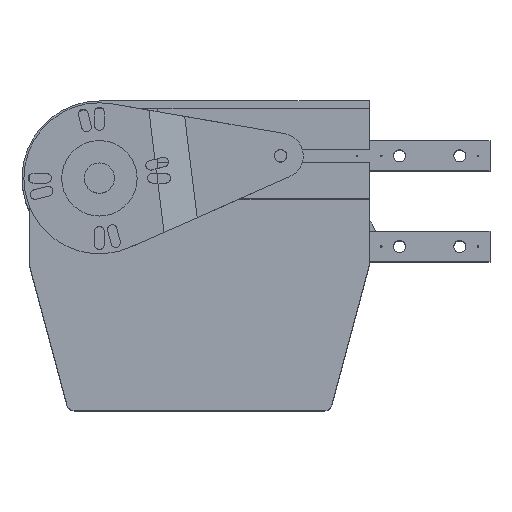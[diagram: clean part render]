
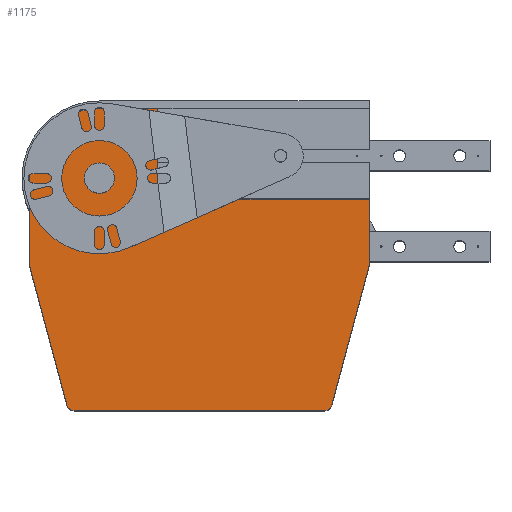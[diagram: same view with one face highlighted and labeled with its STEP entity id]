
A CAD part, top view. The second image highlights one B-rep face of the part: STEP entity #1175.
In plain terms, the highlighted planar face has unit normal (0, 0, 1).
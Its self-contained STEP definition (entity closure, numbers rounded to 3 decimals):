
#113 = LINE ( 'NONE', #465, #6898 ) ;
#126 = CIRCLE ( 'NONE', #4543, 5. ) ;
#172 = CIRCLE ( 'NONE', #3297, 10. ) ;
#414 = CARTESIAN_POINT ( 'NONE',  ( 51.3, -5., 120. ) ) ;
#465 = CARTESIAN_POINT ( 'NONE',  ( 5.17, -109.636, 120. ) ) ;
#512 = ORIENTED_EDGE ( 'NONE', *, *, #3803, .T. ) ;
#594 = EDGE_LOOP ( 'NONE', ( #916, #1393 ) ) ;
#736 = EDGE_CURVE ( 'NONE', #6545, #4932, #172, .T. ) ;
#834 = CARTESIAN_POINT ( 'NONE',  ( 90., -5., 120. ) ) ;
#841 = EDGE_CURVE ( 'NONE', #4054, #5661, #7246, .T. ) ;
#916 = ORIENTED_EDGE ( 'NONE', *, *, #736, .T. ) ;
#969 = VERTEX_POINT ( 'NONE', #2563 ) ;
#970 = CARTESIAN_POINT ( 'NONE',  ( 230., -109., 120. ) ) ;
#1007 = CARTESIAN_POINT ( 'NONE',  ( 200.44, -200., 120. ) ) ;
#1130 = LINE ( 'NONE', #5756, #2305 ) ;
#1138 = CIRCLE ( 'NONE', #7287, 5. ) ;
#1175 = ADVANCED_FACE ( 'NONE', ( #4744, #6193 ), #1613, .F. ) ;
#1377 = ORIENTED_EDGE ( 'NONE', *, *, #2960, .T. ) ;
#1381 = ORIENTED_EDGE ( 'NONE', *, *, #3430, .T. ) ;
#1390 = DIRECTION ( 'NONE',  ( 0., 1., 0. ) ) ;
#1393 = ORIENTED_EDGE ( 'NONE', *, *, #2180, .T. ) ;
#1613 = PLANE ( 'NONE',  #2952 ) ;
#1906 = VECTOR ( 'NONE', #1390, 1000. ) ;
#2075 = CIRCLE ( 'NONE', #8056, 10. ) ;
#2176 = LINE ( 'NONE', #2672, #5105 ) ;
#2180 = EDGE_CURVE ( 'NONE', #4932, #6545, #2075, .T. ) ;
#2198 = CARTESIAN_POINT ( 'NONE',  ( 90., -65., 120. ) ) ;
#2209 = DIRECTION ( 'NONE',  ( -1., 0., 0. ) ) ;
#2216 = CARTESIAN_POINT ( 'NONE',  ( 5.17, -109.636, 120. ) ) ;
#2299 = CARTESIAN_POINT ( 'NONE',  ( 34.56, -200., 120. ) ) ;
#2305 = VECTOR ( 'NONE', #4441, 1000. ) ;
#2330 = CARTESIAN_POINT ( 'NONE',  ( 5., -108.342, 120. ) ) ;
#2331 = CARTESIAN_POINT ( 'NONE',  ( 230., -65., 120. ) ) ;
#2510 = VECTOR ( 'NONE', #7990, 1000. ) ;
#2563 = CARTESIAN_POINT ( 'NONE',  ( 34.56, -205., 120. ) ) ;
#2672 = CARTESIAN_POINT ( 'NONE',  ( 51.3, -5., 120. ) ) ;
#2696 = EDGE_CURVE ( 'NONE', #5558, #7377, #2176, .T. ) ;
#2785 = LINE ( 'NONE', #5201, #4055 ) ;
#2916 = DIRECTION ( 'NONE',  ( 0., 0., -1. ) ) ;
#2952 = AXIS2_PLACEMENT_3D ( 'NONE', #1007, #4091, #2209 ) ;
#2960 = EDGE_CURVE ( 'NONE', #4935, #6211, #126, .T. ) ;
#2998 = DIRECTION ( 'NONE',  ( -1., 0., 0. ) ) ;
#3113 = ORIENTED_EDGE ( 'NONE', *, *, #6491, .T. ) ;
#3179 = VERTEX_POINT ( 'NONE', #3298 ) ;
#3215 = EDGE_CURVE ( 'NONE', #3179, #4935, #7198, .T. ) ;
#3292 = ORIENTED_EDGE ( 'NONE', *, *, #7156, .T. ) ;
#3297 = AXIS2_PLACEMENT_3D ( 'NONE', #7806, #2916, #7887 ) ;
#3298 = CARTESIAN_POINT ( 'NONE',  ( 5., -51.3, 120. ) ) ;
#3349 = ORIENTED_EDGE ( 'NONE', *, *, #841, .T. ) ;
#3430 = EDGE_CURVE ( 'NONE', #6211, #5399, #113, .T. ) ;
#3436 = DIRECTION ( 'NONE',  ( -1., 0., 0. ) ) ;
#3472 = DIRECTION ( 'NONE',  ( -1., 0., 0. ) ) ;
#3589 = CARTESIAN_POINT ( 'NONE',  ( 230., -65., 120. ) ) ;
#3803 = EDGE_CURVE ( 'NONE', #5399, #969, #4789, .T. ) ;
#3851 = VECTOR ( 'NONE', #4633, 1000. ) ;
#3877 = EDGE_LOOP ( 'NONE', ( #3292, #7031, #6121, #3895, #1377, #1381, #512, #4384, #5946, #6844, #3113, #3349 ) ) ;
#3879 = DIRECTION ( 'NONE',  ( -1., 0., 0. ) ) ;
#3883 = CARTESIAN_POINT ( 'NONE',  ( 230., -106.4, 120. ) ) ;
#3895 = ORIENTED_EDGE ( 'NONE', *, *, #3215, .T. ) ;
#4054 = VERTEX_POINT ( 'NONE', #2331 ) ;
#4055 = VECTOR ( 'NONE', #7039, 1000. ) ;
#4064 = DIRECTION ( 'NONE',  ( -1., 0., 0. ) ) ;
#4091 = DIRECTION ( 'NONE',  ( 0., 0., -1. ) ) ;
#4113 = VERTEX_POINT ( 'NONE', #7507 ) ;
#4230 = EDGE_CURVE ( 'NONE', #7377, #3179, #6589, .T. ) ;
#4384 = ORIENTED_EDGE ( 'NONE', *, *, #7861, .T. ) ;
#4441 = DIRECTION ( 'NONE',  ( 1., 0., 0. ) ) ;
#4467 = CARTESIAN_POINT ( 'NONE',  ( 29.73, -201.294, 120. ) ) ;
#4543 = AXIS2_PLACEMENT_3D ( 'NONE', #6101, #7275, #4862 ) ;
#4633 = DIRECTION ( 'NONE',  ( 0., 1., 0. ) ) ;
#4744 = FACE_BOUND ( 'NONE', #594, .T. ) ;
#4789 = CIRCLE ( 'NONE', #7386, 5. ) ;
#4831 = CARTESIAN_POINT ( 'NONE',  ( 41.3, -51.3, 120. ) ) ;
#4862 = DIRECTION ( 'NONE',  ( -1., 0., 0. ) ) ;
#4932 = VERTEX_POINT ( 'NONE', #4831 ) ;
#4935 = VERTEX_POINT ( 'NONE', #2330 ) ;
#5105 = VECTOR ( 'NONE', #3879, 1000. ) ;
#5201 = CARTESIAN_POINT ( 'NONE',  ( 230., -109., 120. ) ) ;
#5220 = LINE ( 'NONE', #3883, #1906 ) ;
#5372 = DIRECTION ( 'NONE',  ( 0., 0., 1. ) ) ;
#5399 = VERTEX_POINT ( 'NONE', #4467 ) ;
#5558 = VERTEX_POINT ( 'NONE', #834 ) ;
#5601 = LINE ( 'NONE', #6455, #3851 ) ;
#5661 = VERTEX_POINT ( 'NONE', #2198 ) ;
#5662 = VECTOR ( 'NONE', #7652, 1000. ) ;
#5723 = EDGE_CURVE ( 'NONE', #4113, #6055, #1138, .T. ) ;
#5756 = CARTESIAN_POINT ( 'NONE',  ( 34.56, -205., 120. ) ) ;
#5946 = ORIENTED_EDGE ( 'NONE', *, *, #5723, .T. ) ;
#6055 = VERTEX_POINT ( 'NONE', #7548 ) ;
#6101 = CARTESIAN_POINT ( 'NONE',  ( 10., -108.342, 120. ) ) ;
#6121 = ORIENTED_EDGE ( 'NONE', *, *, #4230, .T. ) ;
#6193 = FACE_OUTER_BOUND ( 'NONE', #3877, .T. ) ;
#6211 = VERTEX_POINT ( 'NONE', #2216 ) ;
#6455 = CARTESIAN_POINT ( 'NONE',  ( 90., -46.4, 120. ) ) ;
#6470 = DIRECTION ( 'NONE',  ( 0., 0., 1. ) ) ;
#6491 = EDGE_CURVE ( 'NONE', #7394, #4054, #5220, .T. ) ;
#6545 = VERTEX_POINT ( 'NONE', #7028 ) ;
#6561 = CARTESIAN_POINT ( 'NONE',  ( 51.3, -51.3, 120. ) ) ;
#6589 = CIRCLE ( 'NONE', #7067, 46.3 ) ;
#6667 = DIRECTION ( 'NONE',  ( 0.259, -0.966, 0. ) ) ;
#6844 = ORIENTED_EDGE ( 'NONE', *, *, #7965, .T. ) ;
#6898 = VECTOR ( 'NONE', #6667, 1000. ) ;
#6987 = CARTESIAN_POINT ( 'NONE',  ( 5., -51.3, 120. ) ) ;
#7028 = CARTESIAN_POINT ( 'NONE',  ( 61.3, -51.3, 120. ) ) ;
#7031 = ORIENTED_EDGE ( 'NONE', *, *, #2696, .T. ) ;
#7039 = DIRECTION ( 'NONE',  ( 0.259, 0.966, 0. ) ) ;
#7067 = AXIS2_PLACEMENT_3D ( 'NONE', #7147, #6470, #3436 ) ;
#7147 = CARTESIAN_POINT ( 'NONE',  ( 51.3, -51.3, 120. ) ) ;
#7156 = EDGE_CURVE ( 'NONE', #5661, #5558, #5601, .T. ) ;
#7184 = DIRECTION ( 'NONE',  ( 0., 0., -1. ) ) ;
#7198 = LINE ( 'NONE', #6987, #5662 ) ;
#7228 = DIRECTION ( 'NONE',  ( 0., 0., 1. ) ) ;
#7246 = LINE ( 'NONE', #3589, #2510 ) ;
#7275 = DIRECTION ( 'NONE',  ( 0., 0., 1. ) ) ;
#7284 = CARTESIAN_POINT ( 'NONE',  ( 200.44, -200., 120. ) ) ;
#7287 = AXIS2_PLACEMENT_3D ( 'NONE', #7284, #7228, #2998 ) ;
#7377 = VERTEX_POINT ( 'NONE', #414 ) ;
#7386 = AXIS2_PLACEMENT_3D ( 'NONE', #2299, #5372, #4064 ) ;
#7394 = VERTEX_POINT ( 'NONE', #970 ) ;
#7507 = CARTESIAN_POINT ( 'NONE',  ( 200.44, -205., 120. ) ) ;
#7548 = CARTESIAN_POINT ( 'NONE',  ( 205.27, -201.294, 120. ) ) ;
#7652 = DIRECTION ( 'NONE',  ( 0., -1., 0. ) ) ;
#7806 = CARTESIAN_POINT ( 'NONE',  ( 51.3, -51.3, 120. ) ) ;
#7861 = EDGE_CURVE ( 'NONE', #969, #4113, #1130, .T. ) ;
#7887 = DIRECTION ( 'NONE',  ( -1., 0., 0. ) ) ;
#7965 = EDGE_CURVE ( 'NONE', #6055, #7394, #2785, .T. ) ;
#7990 = DIRECTION ( 'NONE',  ( -1., 0., 0. ) ) ;
#8056 = AXIS2_PLACEMENT_3D ( 'NONE', #6561, #7184, #3472 ) ;
